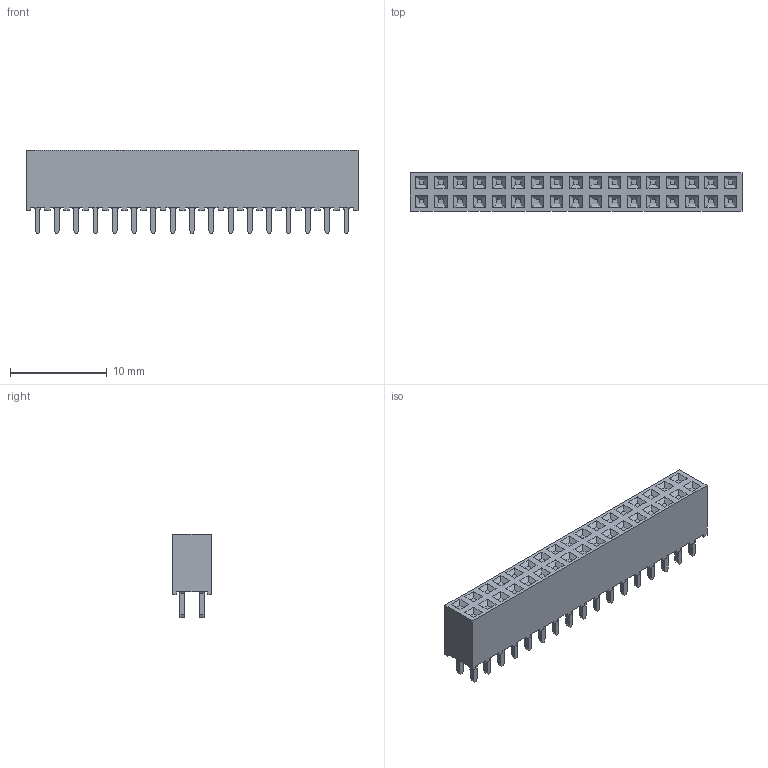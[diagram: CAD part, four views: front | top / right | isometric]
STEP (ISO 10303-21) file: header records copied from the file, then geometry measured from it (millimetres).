
FILE_DESCRIPTION (( 'STEP AP203' ), '1' );
FILE_NAME ('2145-2X17G00SA..STEP', '2018-06-27T12:49:06', ( '' ), ( '' ), 'SwSTEP 2.0', 'SolidWorks 2011', '' );
FILE_SCHEMA (( 'CONFIG_CONTROL_DESIGN' ));
Length unit declared in the file: millimetre
Products named in the file (2): 2145-2X17G00SA.; 2145-2X17G00SA
Assembly tree (1 placements, depth 2):
  2145-2X17G00SA.
    2145-2X17G00SA
Bounding box: 34.4 x 4 x 8.7 mm (x, y, z)
Volume: 838.6 mm3; surface area: 951.3 mm2
Topology: 1 solids, 1 shells, 622 faces, 1656 edges, 1104 vertices
Faces by surface type: plane 554, cylinder 68
Entity records: 19252 total; most frequent: CARTESIAN_POINT 3386, ORIENTED_EDGE 3312, DIRECTION 3044, EDGE_CURVE 1656, LINE 1520, VECTOR 1520, VERTEX_POINT 1104, AXIS2_PLACEMENT_3D 762
